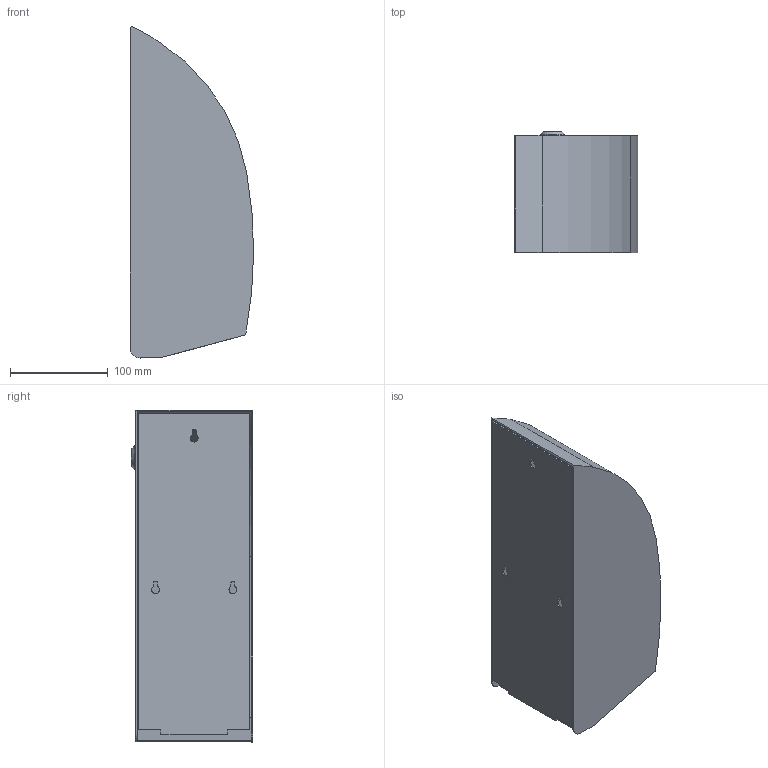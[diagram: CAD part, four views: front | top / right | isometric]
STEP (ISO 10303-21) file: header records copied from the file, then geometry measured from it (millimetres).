
FILE_DESCRIPTION((''),'2;1');
FILE_NAME('M:\Standardvarer\Dispensere til sæbe og duft\282 Dan Dryer Design elektronisk sæbedispenser - rustfri stål\Tegninger\Public 3D files\282 DAN DRYER DESIGN touch free soap dispenser.stp','2010-05-05T15:32:29',('Dan Dryer'),(''),'Autodesk Inventor 2010','Autodesk Inventor 2010','');
FILE_SCHEMA(('AUTOMOTIVE_DESIGN { 1 0 10303 214 1 1 1 1 }'));
Length unit declared in the file: millimetre
Products named in the file (1): 282 DAN DRYER DESIGN touch free soap dispenser
Bounding box: 125.92 x 124 x 339.23 mm (x, y, z)
Volume: 245849.3 mm3; surface area: 324112.8 mm2
Topology: 2 solids, 2 shells, 86 faces, 219 edges, 144 vertices
Faces by surface type: plane 55, cylinder 29, cone 2
Full cylindrical faces by diameter (mm): 7.3 x1, 16 x1, 25 x1
Entity records: 2618 total; most frequent: DIRECTION 448, CARTESIAN_POINT 445, ORIENTED_EDGE 428, EDGE_CURVE 214, VECTOR 154, LINE 154, AXIS2_PLACEMENT_3D 147, VERTEX_POINT 144
